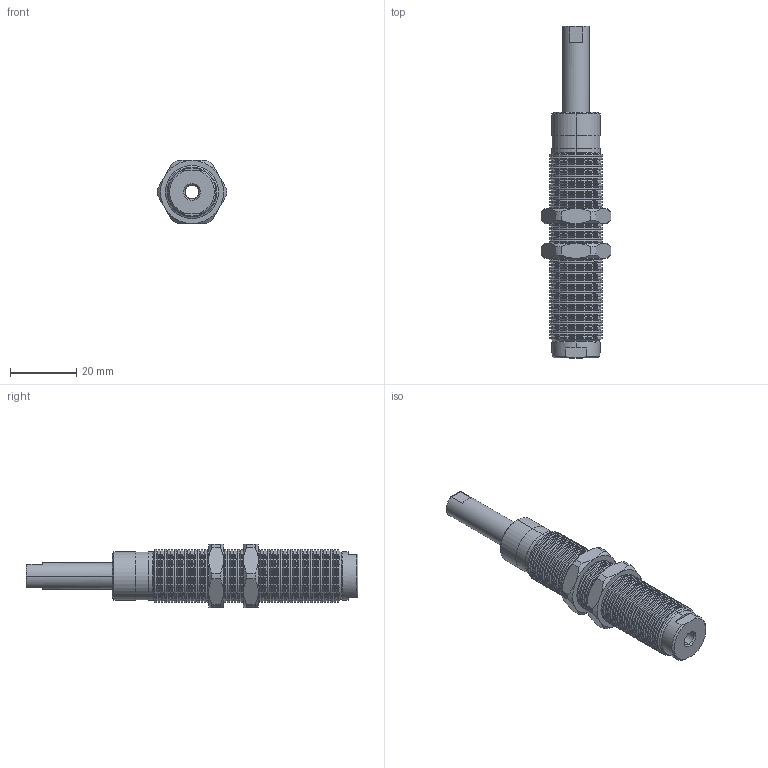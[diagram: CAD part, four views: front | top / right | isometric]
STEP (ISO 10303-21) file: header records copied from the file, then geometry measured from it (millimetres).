
FILE_DESCRIPTION (( 'STEP AP214' ), '1' );
FILE_NAME ('VFCT1620-M5.STEP', '2019-12-19T05:59:12', ( '微软用户' ), ( '微软中国' ), 'SwSTEP 2.0', 'SolidWorks 2016', '' );
FILE_SCHEMA (( 'AUTOMOTIVE_DESIGN' ));
Length unit declared in the file: millimetre
Products named in the file (1): VFCT1620-M5
Bounding box: 20.99 x 100 x 19 mm (x, y, z)
Volume: 12761.6 mm3; surface area: 15346.8 mm2
Topology: 7 solids, 7 shells, 555 faces, 1164 edges, 621 vertices
Faces by surface type: cone 292, cylinder 174, plane 60, torus 21, bspline 8
Entity records: 20995 total; most frequent: CARTESIAN_POINT 2877, DIRECTION 2760, ORIENTED_EDGE 2312, EDGE_CURVE 1156, AXIS2_PLACEMENT_3D 1120, VERTEX_POINT 621, EDGE_LOOP 575, CIRCLE 572
